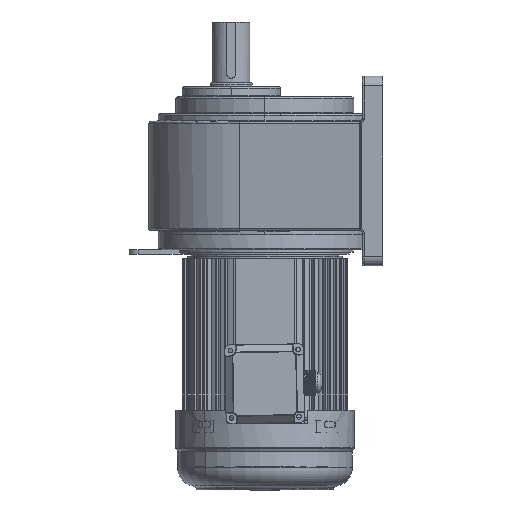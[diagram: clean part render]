
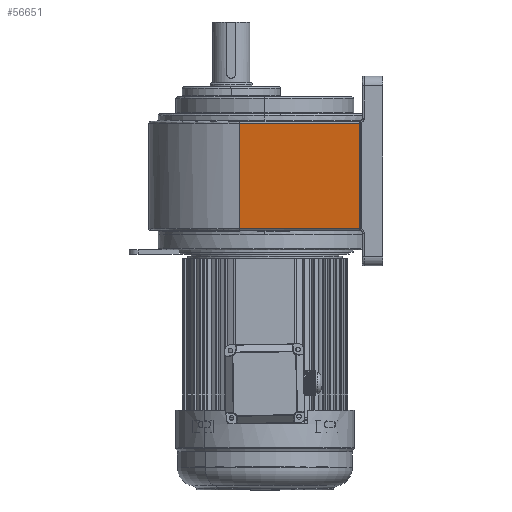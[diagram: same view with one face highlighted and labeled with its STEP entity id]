
A CAD part, left-side view. The second image highlights one B-rep face of the part: STEP entity #56651.
In plain terms, the highlighted planar face has unit normal (-0.989, 0.149, 0).
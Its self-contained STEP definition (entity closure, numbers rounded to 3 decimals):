
#2817 = CARTESIAN_POINT ( 'NONE',  ( -112.723, 27.016, 3. ) ) ;
#4455 = DIRECTION ( 'NONE',  ( -0.989, 0.149, 0. ) ) ;
#6225 = ORIENTED_EDGE ( 'NONE', *, *, #70869, .F. ) ;
#7067 = CARTESIAN_POINT ( 'NONE',  ( -112.723, 27.016, 117.5 ) ) ;
#8379 = LINE ( 'NONE', #48704, #44611 ) ;
#14346 = FACE_OUTER_BOUND ( 'NONE', #108799, .T. ) ;
#17225 = EDGE_CURVE ( 'NONE', #91689, #26251, #19332, .T. ) ;
#19332 = LINE ( 'NONE', #59717, #101470 ) ;
#20566 = DIRECTION ( 'NONE',  ( 0.149, 0.989, 0. ) ) ;
#26251 = VERTEX_POINT ( 'NONE', #90458 ) ;
#34025 = CARTESIAN_POINT ( 'NONE',  ( -112.723, 27.016, 5. ) ) ;
#43137 = DIRECTION ( 'NONE',  ( 0., 0., 1. ) ) ;
#43857 = CARTESIAN_POINT ( 'NONE',  ( -132.115, -101.448, 117.5 ) ) ;
#44611 = VECTOR ( 'NONE', #89094, 1000. ) ;
#44790 = DIRECTION ( 'NONE',  ( -0.149, -0.989, 0. ) ) ;
#48704 = CARTESIAN_POINT ( 'NONE',  ( -132.115, -101.448, 119.5 ) ) ;
#53639 = VECTOR ( 'NONE', #43137, 1000. ) ;
#54694 = PLANE ( 'NONE',  #96601 ) ;
#56651 = ADVANCED_FACE ( 'NONE', ( #14346 ), #54694, .T. ) ;
#59717 = CARTESIAN_POINT ( 'NONE',  ( -112.723, 27.016, 5. ) ) ;
#64689 = EDGE_CURVE ( 'NONE', #26251, #75011, #8379, .T. ) ;
#70863 = LINE ( 'NONE', #111154, #124867 ) ;
#70869 = EDGE_CURVE ( 'NONE', #91689, #125385, #93435, .T. ) ;
#75011 = VERTEX_POINT ( 'NONE', #43857 ) ;
#84659 = ORIENTED_EDGE ( 'NONE', *, *, #17225, .T. ) ;
#89094 = DIRECTION ( 'NONE',  ( 0., 0., 1. ) ) ;
#90044 = ORIENTED_EDGE ( 'NONE', *, *, #64689, .T. ) ;
#90458 = CARTESIAN_POINT ( 'NONE',  ( -132.115, -101.448, 5. ) ) ;
#91689 = VERTEX_POINT ( 'NONE', #34025 ) ;
#93003 = EDGE_CURVE ( 'NONE', #75011, #125385, #70863, .T. ) ;
#93435 = LINE ( 'NONE', #2817, #53639 ) ;
#95072 = CARTESIAN_POINT ( 'NONE',  ( -112.723, 27.016, 119.5 ) ) ;
#96601 = AXIS2_PLACEMENT_3D ( 'NONE', #95072, #4455, #44790 ) ;
#100053 = DIRECTION ( 'NONE',  ( -0.149, -0.989, 0. ) ) ;
#101470 = VECTOR ( 'NONE', #100053, 1000. ) ;
#108799 = EDGE_LOOP ( 'NONE', ( #84659, #90044, #125021, #6225 ) ) ;
#111154 = CARTESIAN_POINT ( 'NONE',  ( -132.115, -101.448, 117.5 ) ) ;
#124867 = VECTOR ( 'NONE', #20566, 1000. ) ;
#125021 = ORIENTED_EDGE ( 'NONE', *, *, #93003, .T. ) ;
#125385 = VERTEX_POINT ( 'NONE', #7067 ) ;
